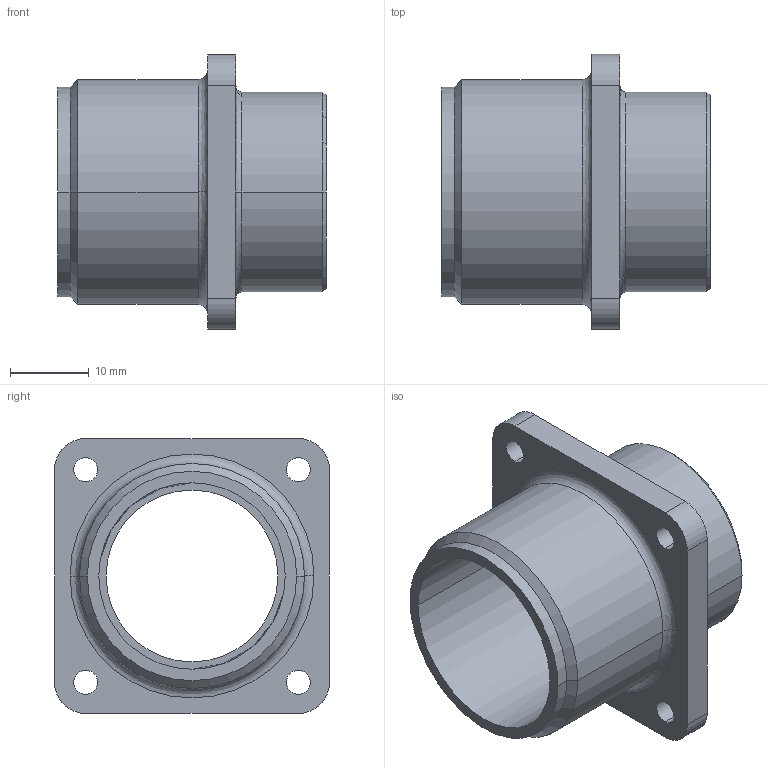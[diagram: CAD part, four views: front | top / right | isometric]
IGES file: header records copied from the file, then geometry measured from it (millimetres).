
Start section:  PTC IGES file: ms3102_18_shell.igs
Global section: file name: ms3102_18_shell.igs; native system: Creo Parametric by PTC Inc.; preprocessor: 2016260; author: t-nakamura; organization: Unknown; date: 20180228.104642; units: inch
Bounding box: 34.14 x 34.92 x 34.92 mm (x, y, z)
Surface area: 7160.7 mm2 (no closed solid volume)
Topology: 0 solids, 0 shells, 39 faces, 192 edges, 192 vertices
Faces by surface type: revolution 30, bspline 9
